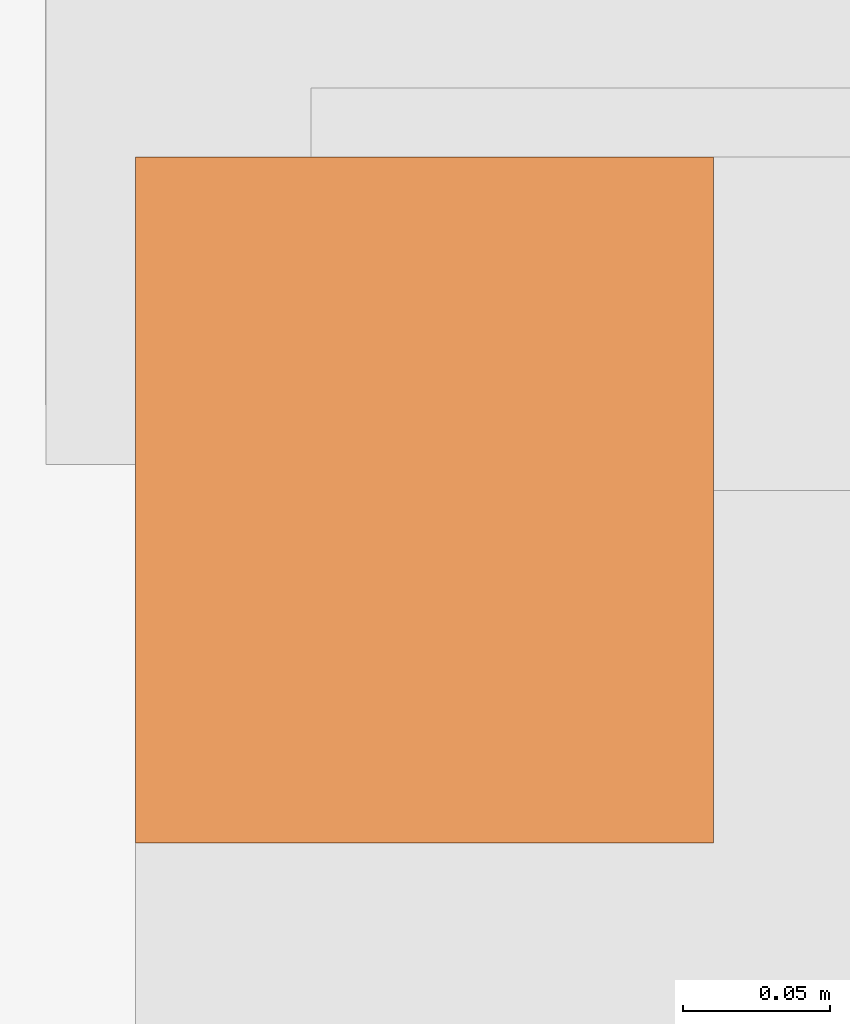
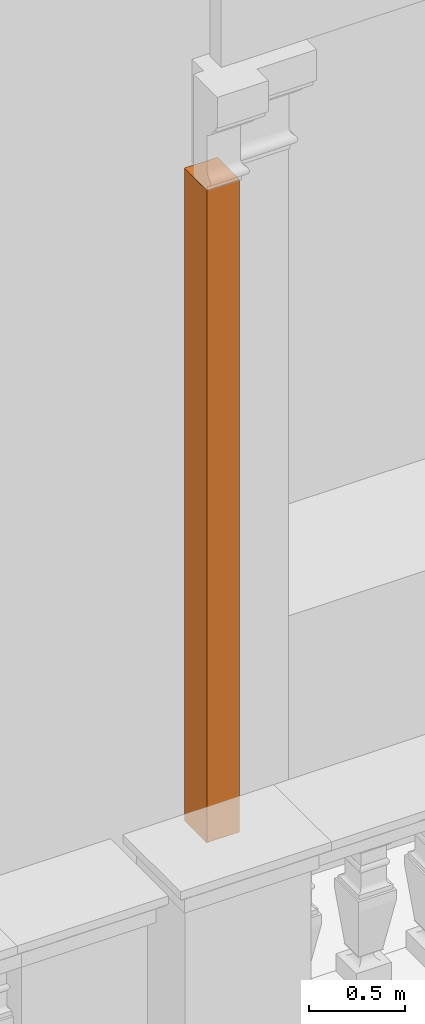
# One storey, part 9 of 14: 1 proxy.
"""IFC2X3 building model written with IfcOpenShell, lengths in metres."""

from ifc_helpers import new_model, entity, si_unit, converted_unit, derived_unit, direction, frame, frame_2d, origin, place, context, subcontext, project, spatial, rectangle, extrude, material, element, save


model = new_model("IFC2X3")

# Units and contexts
model_context = context("Model", 3, precision=1e-05, world=origin(), true_north=direction((6.12303176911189e-17, 1.0)))
body_context = subcontext(model_context, "Body", "Model", "MODEL_VIEW")
ifc_project = project(units=[si_unit("LENGTHUNIT", "METRE"), si_unit("AREAUNIT", "SQUARE_METRE"), si_unit("VOLUMEUNIT", "CUBIC_METRE"), converted_unit("PLANEANGLEUNIT", "DEGREE", entity("IfcRatioMeasure", 0.0174532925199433), si_unit("PLANEANGLEUNIT", "RADIAN"), dimensions=[0, 0, 0, 0, 0, 0, 0]), si_unit("MASSUNIT", "GRAM", prefix="KILO"), derived_unit("MASSDENSITYUNIT", [(si_unit("MASSUNIT", "GRAM", prefix="KILO"), 1), (si_unit("LENGTHUNIT", "METRE"), -3)]), si_unit("TIMEUNIT", "SECOND"), si_unit("FREQUENCYUNIT", "HERTZ"), si_unit("THERMODYNAMICTEMPERATUREUNIT", "DEGREE_CELSIUS"), derived_unit("THERMALTRANSMITTANCEUNIT", [(si_unit("MASSUNIT", "GRAM", prefix="KILO"), 1), (si_unit("THERMODYNAMICTEMPERATUREUNIT", "KELVIN"), -1), (si_unit("TIMEUNIT", "SECOND"), -3)]), derived_unit("VOLUMETRICFLOWRATEUNIT", [(si_unit("LENGTHUNIT", "METRE"), 3), (si_unit("TIMEUNIT", "SECOND"), -1)]), si_unit("ELECTRICCURRENTUNIT", "AMPERE"), si_unit("ELECTRICVOLTAGEUNIT", "VOLT"), si_unit("POWERUNIT", "WATT"), si_unit("FORCEUNIT", "NEWTON", prefix="KILO"), si_unit("ILLUMINANCEUNIT", "LUX"), si_unit("LUMINOUSFLUXUNIT", "LUMEN"), si_unit("LUMINOUSINTENSITYUNIT", "CANDELA"), derived_unit("USERDEFINED", [(si_unit("MASSUNIT", "GRAM", prefix="KILO"), -1), (si_unit("LENGTHUNIT", "METRE"), -2), (si_unit("TIMEUNIT", "SECOND"), 3), (si_unit("LUMINOUSFLUXUNIT", "LUMEN"), 1)]), derived_unit("LINEARVELOCITYUNIT", [(si_unit("LENGTHUNIT", "METRE"), 1), (si_unit("TIMEUNIT", "SECOND"), -1)]), si_unit("PRESSUREUNIT", "PASCAL"), derived_unit("USERDEFINED", [(si_unit("LENGTHUNIT", "METRE"), -2), (si_unit("MASSUNIT", "GRAM", prefix="KILO"), 1), (si_unit("TIMEUNIT", "SECOND"), -2)])], contexts=[model_context])

# Site, building, storey
site_placement = place(None, origin())
site = spatial("IfcSite", under=ifc_project, at=site_placement, Name="Default", CompositionType="ELEMENT")
building_placement = place(site_placement, origin())
building = spatial("IfcBuilding", under=site, at=building_placement, CompositionType="ELEMENT")
storey_placement = place(building_placement, frame((0.0, 0.0, 13.366833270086)))
storey = spatial("IfcBuildingStorey", under=building, at=storey_placement, Name="Livello 2", CompositionType="ELEMENT", Elevation=13.366833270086)

# Proxy
ifc_material = material(Name="Travertino")
proxy_placement = place(storey_placement, frame((4.74254665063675, 0.792024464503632, 0.612700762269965)))
element("IfcBuildingElementProxy", 1, at=proxy_placement, inside=storey, material=ifc_material, Name="Stratigrafia", context=body_context, shape_type="SweptSolid", body=[
    extrude(rectangle(XDim=4.14295671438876, YDim=0.233508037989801, at=frame_2d((-1.11022302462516e-15, -6.93889390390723e-17), x_axis=(1.0, 0.0))), frame((0.0, 0.116754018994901, 2.07147835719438), z_axis=(1.0, 0.0, 0.0), x_axis=(0.0, 0.0, -1.0)), (0.0, 0.0, 1.0), 0.19686657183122),
])

save(model, "model.ifc")
